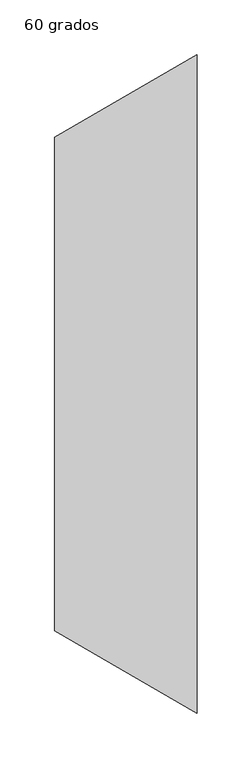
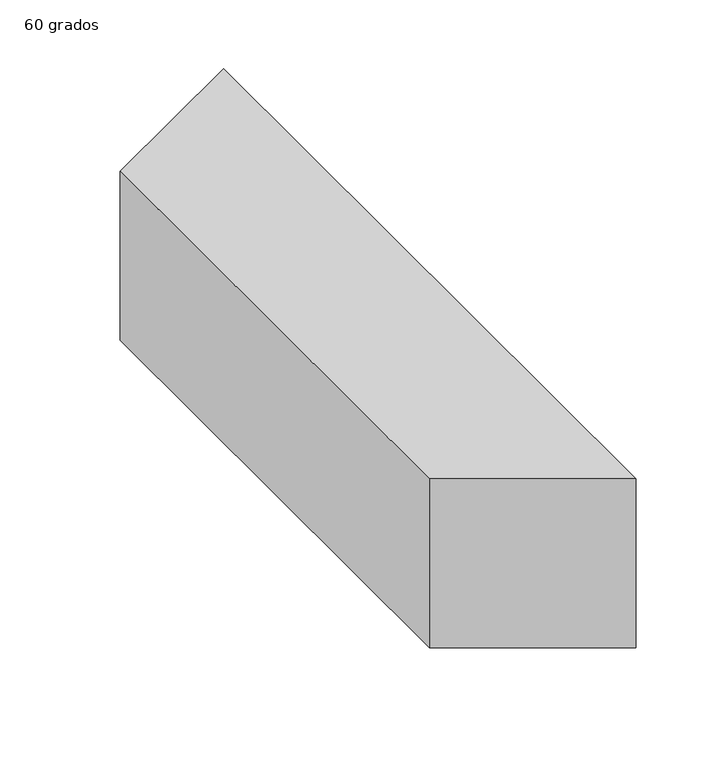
"""IFC4 building model written with IfcOpenShell, lengths in millimetres: duct fitting geometry, M_Transición rectangular - Ángulo : 60 grados."""

from ifc_helpers import new_model, si_unit, frame, origin, place, context, project, spatial, polyline, outline, extrude, source, transform, mapped, element, save


def duct_fitting_60_grados_0afbb07b(model_context):
    return source(origin(), model_context, "Body", "SweptSolid", [
        extrude(outline(polyline([(0.0, -225.0), (0.0, 225.0), (129.9038106, 300.0), (129.9038106, -300.0), (0.0, -225.0)])), frame((0.0, 0.0, -75.0), z_axis=(0.0, 0.0, 1.0), x_axis=(1.0, 0.0, 0.0)), (0.0, 0.0, 1.0), 150.0),
    ])


if __name__ == "__main__":
    model = new_model("IFC4")
    model_context = context("Model", 3, world=origin())
    ifc_project = project(units=[si_unit("LENGTHUNIT", "METRE", prefix="MILLI")], contexts=[model_context])
    site = spatial("IfcSite", under=ifc_project)
    building = spatial("IfcBuilding", under=site)
    placement = place(None, origin())
    duct_fitting_60_grados_shape = duct_fitting_60_grados_0afbb07b(model_context)
    element("IfcDuctFitting", 1, ObjectType="M_Transición rectangular - Ángulo : 60 grados", at=placement, inside=building, context=model_context, shape_type="MappedRepresentation", body=[
        mapped(duct_fitting_60_grados_shape, transform((0.0, 0.0, 0.0), x_axis=(1.0, 0.0, 0.0), y_axis=(0.0, 1.0, 0.0), z_axis=(0.0, 0.0, 1.0))),
    ])
    save(model, "model.ifc")
